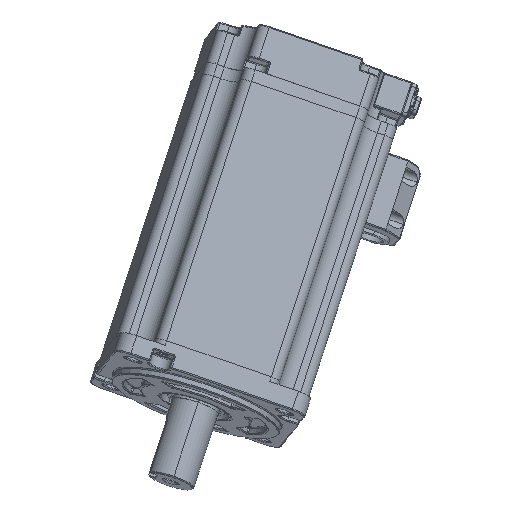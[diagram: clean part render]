
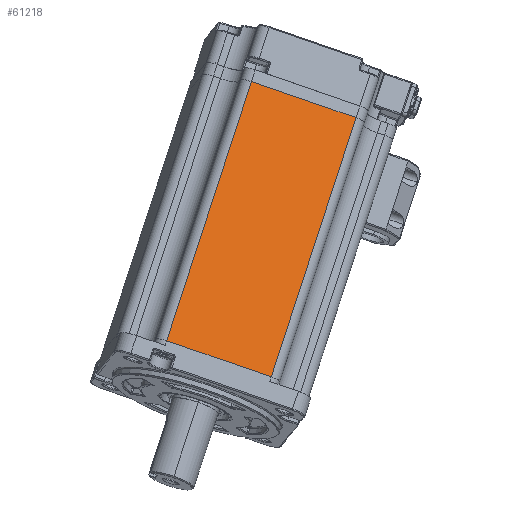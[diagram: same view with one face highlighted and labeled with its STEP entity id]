
A CAD part, top view. The second image highlights one B-rep face of the part: STEP entity #61218.
In plain terms, the highlighted planar face has unit normal (0.138, 0.17, 0.976) as drawn and (0, -1, 0) by its records, which use the part's own axes.
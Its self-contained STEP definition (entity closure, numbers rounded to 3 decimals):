
#5650 = CARTESIAN_POINT ( 'NONE',  ( 22., -40., 110.5 ) ) ;
#6132 = CARTESIAN_POINT ( 'NONE',  ( -22., -40., 110.5 ) ) ;
#8949 = ORIENTED_EDGE ( 'NONE', *, *, #81985, .T. ) ;
#9051 = VECTOR ( 'NONE', #102734, 1000. ) ;
#13058 = CARTESIAN_POINT ( 'NONE',  ( -22., -40., 110.5 ) ) ;
#18559 = VERTEX_POINT ( 'NONE', #95117 ) ;
#20500 = VERTEX_POINT ( 'NONE', #13058 ) ;
#25559 = LINE ( 'NONE', #119265, #46602 ) ;
#27224 = PLANE ( 'NONE',  #92877 ) ;
#29004 = EDGE_CURVE ( 'NONE', #20500, #18559, #133557, .T. ) ;
#30213 = DIRECTION ( 'NONE',  ( 0., 0., -1. ) ) ;
#33355 = CARTESIAN_POINT ( 'NONE',  ( 22., -40., 0. ) ) ;
#42195 = VERTEX_POINT ( 'NONE', #59019 ) ;
#46602 = VECTOR ( 'NONE', #131052, 1000. ) ;
#51551 = ORIENTED_EDGE ( 'NONE', *, *, #29004, .F. ) ;
#52281 = CARTESIAN_POINT ( 'NONE',  ( -22., -40., 110.5 ) ) ;
#59019 = CARTESIAN_POINT ( 'NONE',  ( -22., -40., 0. ) ) ;
#61218 = ADVANCED_FACE ( 'NONE', ( #113285 ), #27224, .F. ) ;
#63029 = DIRECTION ( 'NONE',  ( 0., 0., 1. ) ) ;
#69313 = EDGE_CURVE ( 'NONE', #18559, #146491, #85544, .T. ) ;
#73045 = EDGE_CURVE ( 'NONE', #42195, #146491, #25559, .T. ) ;
#74884 = LINE ( 'NONE', #6132, #92110 ) ;
#80593 = ORIENTED_EDGE ( 'NONE', *, *, #73045, .T. ) ;
#81985 = EDGE_CURVE ( 'NONE', #20500, #42195, #74884, .T. ) ;
#85544 = LINE ( 'NONE', #5650, #112505 ) ;
#92110 = VECTOR ( 'NONE', #103547, 1000. ) ;
#92877 = AXIS2_PLACEMENT_3D ( 'NONE', #52281, #111905, #63029 ) ;
#95117 = CARTESIAN_POINT ( 'NONE',  ( 22., -40., 110.5 ) ) ;
#102734 = DIRECTION ( 'NONE',  ( 1., 0., 0. ) ) ;
#103547 = DIRECTION ( 'NONE',  ( 0., 0., -1. ) ) ;
#111905 = DIRECTION ( 'NONE',  ( 0., 1., 0. ) ) ;
#112505 = VECTOR ( 'NONE', #30213, 1000. ) ;
#113285 = FACE_OUTER_BOUND ( 'NONE', #127281, .T. ) ;
#119265 = CARTESIAN_POINT ( 'NONE',  ( -22., -40., 0. ) ) ;
#127281 = EDGE_LOOP ( 'NONE', ( #80593, #156466, #51551, #8949 ) ) ;
#131052 = DIRECTION ( 'NONE',  ( 1., 0., 0. ) ) ;
#133557 = LINE ( 'NONE', #152622, #9051 ) ;
#146491 = VERTEX_POINT ( 'NONE', #33355 ) ;
#152622 = CARTESIAN_POINT ( 'NONE',  ( -22., -40., 110.5 ) ) ;
#156466 = ORIENTED_EDGE ( 'NONE', *, *, #69313, .F. ) ;
